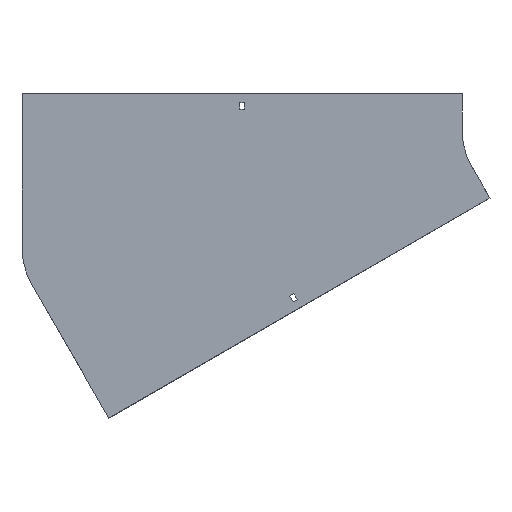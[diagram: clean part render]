
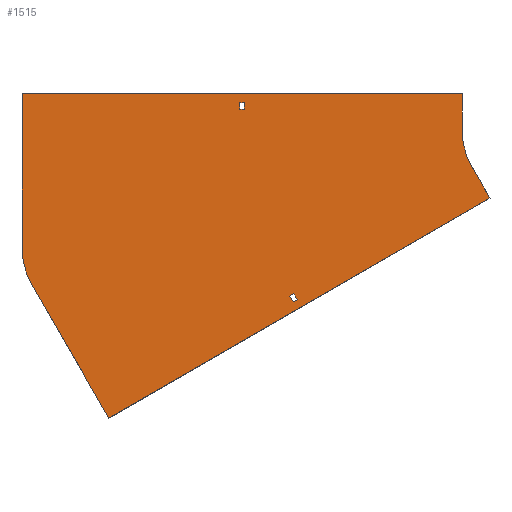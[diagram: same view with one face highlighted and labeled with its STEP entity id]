
A CAD part, front view. The second image highlights one B-rep face of the part: STEP entity #1515.
In plain terms, the highlighted planar face has unit normal (0, -1, 0).
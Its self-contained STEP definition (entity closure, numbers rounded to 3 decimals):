
#11 = CARTESIAN_POINT ( 'NONE',  ( -584.682, 0., -395.301 ) ) ;
#30 = DIRECTION ( 'NONE',  ( 0., 0., 1. ) ) ;
#46 = CARTESIAN_POINT ( 'NONE',  ( -398.75, 0., 38. ) ) ;
#47 = LINE ( 'NONE', #909, #1692 ) ;
#78 = EDGE_CURVE ( 'NONE', #1809, #1190, #1474, .T. ) ;
#80 = LINE ( 'NONE', #1870, #1794 ) ;
#87 = AXIS2_PLACEMENT_3D ( 'NONE', #297, #877, #730 ) ;
#100 = EDGE_CURVE ( 'NONE', #693, #1839, #1485, .T. ) ;
#114 = ORIENTED_EDGE ( 'NONE', *, *, #1039, .F. ) ;
#117 = VERTEX_POINT ( 'NONE', #178 ) ;
#118 = CARTESIAN_POINT ( 'NONE',  ( -331.957, 0., -235.534 ) ) ;
#121 = LINE ( 'NONE', #1480, #1004 ) ;
#129 = LINE ( 'NONE', #118, #270 ) ;
#169 = CARTESIAN_POINT ( 'NONE',  ( -336.457, 0., -227.74 ) ) ;
#171 = CARTESIAN_POINT ( 'NONE',  ( -604., 0., -161.841 ) ) ;
#172 = LINE ( 'NONE', #1359, #1431 ) ;
#178 = CARTESIAN_POINT ( 'NONE',  ( -704., 0., 50. ) ) ;
#183 = CARTESIAN_POINT ( 'NONE',  ( -405.25, 0., 29. ) ) ;
#185 = ORIENTED_EDGE ( 'NONE', *, *, #100, .F. ) ;
#197 = DIRECTION ( 'NONE',  ( 0., -1., 0. ) ) ;
#212 = LINE ( 'NONE', #946, #1123 ) ;
#219 = EDGE_CURVE ( 'NONE', #404, #117, #720, .T. ) ;
#226 = CARTESIAN_POINT ( 'NONE',  ( -336.457, 0., -227.74 ) ) ;
#238 = VECTOR ( 'NONE', #1082, 1000. ) ;
#264 = ORIENTED_EDGE ( 'NONE', *, *, #1206, .F. ) ;
#270 = VECTOR ( 'NONE', #1641, 1000. ) ;
#281 = FACE_BOUND ( 'NONE', #977, .T. ) ;
#284 = ORIENTED_EDGE ( 'NONE', *, *, #1175, .F. ) ;
#296 = DIRECTION ( 'NONE',  ( 1., 0., 0. ) ) ;
#297 = CARTESIAN_POINT ( 'NONE',  ( 0., 0., 0. ) ) ;
#299 = VERTEX_POINT ( 'NONE', #691 ) ;
#351 = LINE ( 'NONE', #1104, #238 ) ;
#373 = VERTEX_POINT ( 'NONE', #606 ) ;
#380 = EDGE_CURVE ( 'NONE', #1839, #1599, #1521, .T. ) ;
#404 = VERTEX_POINT ( 'NONE', #1798 ) ;
#406 = VERTEX_POINT ( 'NONE', #617 ) ;
#432 = CARTESIAN_POINT ( 'NONE',  ( -326.328, 0., -232.284 ) ) ;
#436 = ORIENTED_EDGE ( 'NONE', *, *, #478, .F. ) ;
#441 = VECTOR ( 'NONE', #876, 1000. ) ;
#442 = FACE_OUTER_BOUND ( 'NONE', #494, .T. ) ;
#478 = EDGE_CURVE ( 'NONE', #1190, #1712, #80, .T. ) ;
#494 = EDGE_LOOP ( 'NONE', ( #1626, #1709, #532, #436, #1770, #284, #114, #1109 ) ) ;
#497 = DIRECTION ( 'NONE',  ( 0., 0., -1. ) ) ;
#503 = DIRECTION ( 'NONE',  ( 0., 0., -1. ) ) ;
#521 = VECTOR ( 'NONE', #1076, 1000. ) ;
#532 = ORIENTED_EDGE ( 'NONE', *, *, #1628, .F. ) ;
#540 = EDGE_CURVE ( 'NONE', #406, #797, #788, .T. ) ;
#564 = CARTESIAN_POINT ( 'NONE',  ( -61.603, 0., -93.301 ) ) ;
#580 = CIRCLE ( 'NONE', #771, 100. ) ;
#583 = CIRCLE ( 'NONE', #649, 100. ) ;
#593 = FACE_BOUND ( 'NONE', #1535, .T. ) ;
#606 = CARTESIAN_POINT ( 'NONE',  ( -405.25, 0., 29. ) ) ;
#617 = CARTESIAN_POINT ( 'NONE',  ( -100., 0., 50. ) ) ;
#649 = AXIS2_PLACEMENT_3D ( 'NONE', #171, #1391, #30 ) ;
#659 = CARTESIAN_POINT ( 'NONE',  ( -100., 0., 50. ) ) ;
#668 = EDGE_CURVE ( 'NONE', #373, #1388, #121, .T. ) ;
#691 = CARTESIAN_POINT ( 'NONE',  ( -331.957, 0., -235.534 ) ) ;
#693 = VERTEX_POINT ( 'NONE', #432 ) ;
#712 = ORIENTED_EDGE ( 'NONE', *, *, #380, .F. ) ;
#720 = LINE ( 'NONE', #1018, #1823 ) ;
#721 = CARTESIAN_POINT ( 'NONE',  ( -100., 0., 0. ) ) ;
#725 = EDGE_CURVE ( 'NONE', #1388, #1024, #875, .T. ) ;
#730 = DIRECTION ( 'NONE',  ( 0., 0., -1. ) ) ;
#766 = DIRECTION ( 'NONE',  ( -0.866, 0., -0.5 ) ) ;
#771 = AXIS2_PLACEMENT_3D ( 'NONE', #1166, #197, #497 ) ;
#777 = ORIENTED_EDGE ( 'NONE', *, *, #1116, .F. ) ;
#788 = LINE ( 'NONE', #659, #1884 ) ;
#797 = VERTEX_POINT ( 'NONE', #721 ) ;
#810 = EDGE_CURVE ( 'NONE', #1336, #373, #1531, .T. ) ;
#875 = LINE ( 'NONE', #1173, #1475 ) ;
#876 = DIRECTION ( 'NONE',  ( -0.866, 0., -0.5 ) ) ;
#877 = DIRECTION ( 'NONE',  ( 0., -1., 0. ) ) ;
#909 = CARTESIAN_POINT ( 'NONE',  ( -704., 0., 50. ) ) ;
#916 = DIRECTION ( 'NONE',  ( 0.5, 0., -0.866 ) ) ;
#943 = ORIENTED_EDGE ( 'NONE', *, *, #725, .T. ) ;
#946 = CARTESIAN_POINT ( 'NONE',  ( -398.75, 0., 29. ) ) ;
#977 = EDGE_LOOP ( 'NONE', ( #777, #264, #712, #185 ) ) ;
#1004 = VECTOR ( 'NONE', #1327, 1000. ) ;
#1018 = CARTESIAN_POINT ( 'NONE',  ( -704., 0., -161.841 ) ) ;
#1024 = VERTEX_POINT ( 'NONE', #46 ) ;
#1037 = DIRECTION ( 'NONE',  ( 0., 0., 1. ) ) ;
#1039 = EDGE_CURVE ( 'NONE', #797, #1188, #580, .T. ) ;
#1043 = EDGE_CURVE ( 'NONE', #1024, #1336, #212, .T. ) ;
#1076 = DIRECTION ( 'NONE',  ( -1., 0., 0. ) ) ;
#1082 = DIRECTION ( 'NONE',  ( 0.5, 0., -0.866 ) ) ;
#1104 = CARTESIAN_POINT ( 'NONE',  ( -336.457, 0., -227.74 ) ) ;
#1106 = CARTESIAN_POINT ( 'NONE',  ( -330.828, 0., -224.49 ) ) ;
#1109 = ORIENTED_EDGE ( 'NONE', *, *, #540, .F. ) ;
#1114 = DIRECTION ( 'NONE',  ( -0.5, 0., 0.866 ) ) ;
#1116 = EDGE_CURVE ( 'NONE', #299, #693, #129, .T. ) ;
#1123 = VECTOR ( 'NONE', #1713, 1000. ) ;
#1166 = CARTESIAN_POINT ( 'NONE',  ( 0., 0., 0. ) ) ;
#1167 = CARTESIAN_POINT ( 'NONE',  ( -330.828, 0., -224.49 ) ) ;
#1173 = CARTESIAN_POINT ( 'NONE',  ( -405.25, 0., 38. ) ) ;
#1175 = EDGE_CURVE ( 'NONE', #1188, #1809, #172, .T. ) ;
#1188 = VERTEX_POINT ( 'NONE', #1683 ) ;
#1190 = VERTEX_POINT ( 'NONE', #11 ) ;
#1206 = EDGE_CURVE ( 'NONE', #1599, #299, #351, .T. ) ;
#1220 = EDGE_CURVE ( 'NONE', #117, #406, #47, .T. ) ;
#1228 = DIRECTION ( 'NONE',  ( -0.5, 0., 0.866 ) ) ;
#1298 = CARTESIAN_POINT ( 'NONE',  ( -405.25, 0., 38. ) ) ;
#1327 = DIRECTION ( 'NONE',  ( 0., 0., 1. ) ) ;
#1336 = VERTEX_POINT ( 'NONE', #1714 ) ;
#1359 = CARTESIAN_POINT ( 'NONE',  ( -86.603, 0., -50. ) ) ;
#1388 = VERTEX_POINT ( 'NONE', #1298 ) ;
#1391 = DIRECTION ( 'NONE',  ( 0., 1., 0. ) ) ;
#1431 = VECTOR ( 'NONE', #916, 1000. ) ;
#1474 = LINE ( 'NONE', #564, #441 ) ;
#1475 = VECTOR ( 'NONE', #296, 1000. ) ;
#1478 = VECTOR ( 'NONE', #766, 1000. ) ;
#1480 = CARTESIAN_POINT ( 'NONE',  ( -405.25, 0., 29. ) ) ;
#1485 = LINE ( 'NONE', #1167, #1805 ) ;
#1488 = CARTESIAN_POINT ( 'NONE',  ( -690.603, 0., -211.841 ) ) ;
#1515 = ADVANCED_FACE ( 'NONE', ( #593, #442, #281 ), #1653, .T. ) ;
#1519 = CARTESIAN_POINT ( 'NONE',  ( -61.603, 0., -93.301 ) ) ;
#1521 = LINE ( 'NONE', #169, #1478 ) ;
#1531 = LINE ( 'NONE', #183, #521 ) ;
#1535 = EDGE_LOOP ( 'NONE', ( #1556, #943, #1856, #1655 ) ) ;
#1556 = ORIENTED_EDGE ( 'NONE', *, *, #668, .T. ) ;
#1599 = VERTEX_POINT ( 'NONE', #226 ) ;
#1626 = ORIENTED_EDGE ( 'NONE', *, *, #1220, .F. ) ;
#1628 = EDGE_CURVE ( 'NONE', #1712, #404, #583, .T. ) ;
#1641 = DIRECTION ( 'NONE',  ( 0.866, 0., 0.5 ) ) ;
#1653 = PLANE ( 'NONE',  #87 ) ;
#1655 = ORIENTED_EDGE ( 'NONE', *, *, #810, .T. ) ;
#1683 = CARTESIAN_POINT ( 'NONE',  ( -86.603, 0., -50. ) ) ;
#1687 = DIRECTION ( 'NONE',  ( 1., 0., 0. ) ) ;
#1692 = VECTOR ( 'NONE', #1687, 1000. ) ;
#1709 = ORIENTED_EDGE ( 'NONE', *, *, #219, .F. ) ;
#1712 = VERTEX_POINT ( 'NONE', #1488 ) ;
#1713 = DIRECTION ( 'NONE',  ( 0., 0., -1. ) ) ;
#1714 = CARTESIAN_POINT ( 'NONE',  ( -398.75, 0., 29. ) ) ;
#1770 = ORIENTED_EDGE ( 'NONE', *, *, #78, .F. ) ;
#1794 = VECTOR ( 'NONE', #1114, 1000. ) ;
#1798 = CARTESIAN_POINT ( 'NONE',  ( -704., 0., -161.841 ) ) ;
#1805 = VECTOR ( 'NONE', #1228, 1000. ) ;
#1809 = VERTEX_POINT ( 'NONE', #1519 ) ;
#1823 = VECTOR ( 'NONE', #1037, 1000. ) ;
#1839 = VERTEX_POINT ( 'NONE', #1106 ) ;
#1856 = ORIENTED_EDGE ( 'NONE', *, *, #1043, .T. ) ;
#1870 = CARTESIAN_POINT ( 'NONE',  ( -584.682, 0., -395.301 ) ) ;
#1884 = VECTOR ( 'NONE', #503, 1000. ) ;
